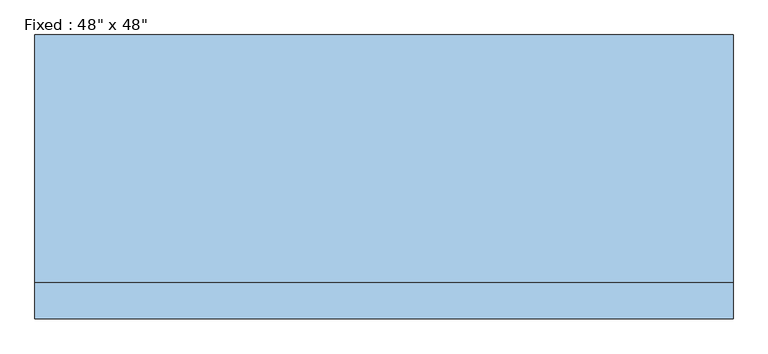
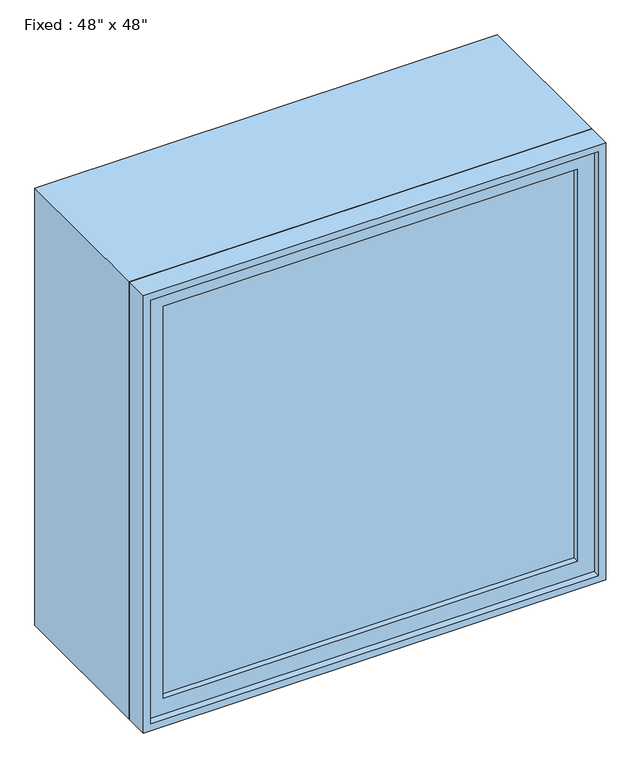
"""IFC4 building model written with IfcOpenShell, lengths in millimetres: window geometry."""

import ifcopenshell
import ifcopenshell.guid

model = None  # the IFC model being written
_history = None  # IfcOwnerHistory: only IFC2X3 demands one
_inside = {}  # id of a spatial element -> (the spatial element, [elements in it])
_under = {}  # id of a project, library or spatial element -> (it, [spatial elements below it])
_declared = {}  # id of a project -> (the project, [libraries it declares])
_typed = {}  # id of a type object -> (the type object, [elements of that type])
_made_of = {}  # id of a material, layer set ... -> (it, [elements and type objects made of it])


def new_model(schema):
    """Start an empty IFC model of exactly this schema.

    Asked for "IFC4X3", IfcOpenShell would pick the latest addendum, in which some entities
    have other attributes; the version numbers below select the first issue.
    IFC2X3 requires an IfcOwnerHistory on every rooted entity: one is made here for all.
    """
    global model, _history
    if schema == "IFC4X3":
        model = ifcopenshell.file(schema_version=(4, 3, 0, 0))
    else:
        model = ifcopenshell.file(schema=schema)
    _inside.clear()
    _under.clear()
    _declared.clear()
    _typed.clear()
    _made_of.clear()
    _history = None
    if model.schema == "IFC2X3":
        org = make("IfcOrganization", Name="unknown")
        user = make(
            "IfcPersonAndOrganization",
            ThePerson=make("IfcPerson", FamilyName="unknown"),
            TheOrganization=org,
        )
        app = make(
            "IfcApplication",
            ApplicationDeveloper=org,
            Version="unknown",
            ApplicationFullName="unknown",
            ApplicationIdentifier="unknown",
        )
        _history = make(
            "IfcOwnerHistory",
            OwningUser=user,
            OwningApplication=app,
            ChangeAction="ADDED",
            CreationDate=0,
        )
    return model


def make(cls, **values):
    """One entity of the class cls with the attributes given. An attribute that is None is left unset."""
    return model.create_entity(
        cls, **{name: value for name, value in values.items() if value is not None}
    )


def rooted(cls, **values):
    """An entity with a GlobalId (a new one), such as an element, a storey or a relation."""
    return make(cls, GlobalId=ifcopenshell.guid.new(), OwnerHistory=_history, **values)


def si_unit(unit_type, name, prefix=None):
    """IfcSIUnit, for example si_unit("LENGTHUNIT", "METRE", prefix="MILLI")."""
    return make("IfcSIUnit", UnitType=unit_type, Prefix=prefix, Name=name)


def assignment(units):
    """IfcUnitAssignment: the units of a project."""
    return None if units is None else make("IfcUnitAssignment", Units=units)


def point(xyz):
    """IfcCartesianPoint."""
    return None if xyz is None else make("IfcCartesianPoint", Coordinates=xyz)


def direction(xyz):
    """IfcDirection."""
    return None if xyz is None else make("IfcDirection", DirectionRatios=xyz)


def frame(location, z_axis=None, x_axis=None):
    """IfcAxis2Placement3D, a coordinate frame: its origin and axes. An axis left out is left unset."""
    return make(
        "IfcAxis2Placement3D",
        Location=point(location),
        Axis=direction(z_axis),
        RefDirection=direction(x_axis),
    )


def origin():
    """The frame at (0, 0, 0) with its axes left unset."""
    return frame((0.0, 0.0, 0.0))


def place(relative_to, where):
    """IfcLocalPlacement: puts the frame where relative to a parent placement (None: the world)."""
    return make(
        "IfcLocalPlacement", PlacementRelTo=relative_to, RelativePlacement=where
    )


def context(
    kind, dimensions, precision=None, world=None, true_north=None, identifier=None
):
    """IfcGeometricRepresentationContext, for example the 3D "Model" context."""
    return make(
        "IfcGeometricRepresentationContext",
        ContextIdentifier=identifier,
        ContextType=kind,
        CoordinateSpaceDimension=dimensions,
        Precision=precision,
        WorldCoordinateSystem=world,
        TrueNorth=true_north,
    )


def project(units=None, contexts=None):
    """IfcProject with its units and contexts."""
    return rooted(
        "IfcProject",
        Name="project",
        RepresentationContexts=contexts,
        UnitsInContext=assignment(units),
    )


def spatial(cls, under=None, at=None, **own):
    """A site, building, storey or space (cls), placed at a placement, below another one or the project."""
    s = rooted(cls, ObjectPlacement=at, **own)
    if under is not None:
        _under.setdefault(under.id(), (under, []))[1].append(s)
    return s


def polyline(points):
    """IfcPolyline through the points."""
    return make("IfcPolyline", Points=[point(p) for p in points])


def outline(outer, holes=None, kind="AREA"):
    """IfcArbitraryClosedProfileDef: a profile drawn as a closed curve; with holes, ...WithVoids."""
    if holes is None:
        return make("IfcArbitraryClosedProfileDef", ProfileType=kind, OuterCurve=outer)
    return make(
        "IfcArbitraryProfileDefWithVoids",
        ProfileType=kind,
        OuterCurve=outer,
        InnerCurves=holes,
    )


def extrude(swept, where, along, depth):
    """IfcExtrudedAreaSolid: the profile swept, set in the frame where, extruded along a direction by depth."""
    return make(
        "IfcExtrudedAreaSolid",
        SweptArea=swept,
        Position=where,
        ExtrudedDirection=direction(along),
        Depth=depth,
    )


def shape(context_of_items, identifier, shape_type, items):
    """IfcShapeRepresentation: the items that make up one representation, for example the "Body"."""
    return make(
        "IfcShapeRepresentation",
        ContextOfItems=context_of_items,
        RepresentationIdentifier=identifier,
        RepresentationType=shape_type,
        Items=items,
    )


def source(mapping_origin, context_of_items, identifier, shape_type, items):
    """IfcRepresentationMap: a shape defined once, which mapped items show again and again."""
    return make(
        "IfcRepresentationMap",
        MappingOrigin=mapping_origin,
        MappedRepresentation=shape(context_of_items, identifier, shape_type, items),
    )


def transform(
    local_origin,
    x_axis=None,
    y_axis=None,
    z_axis=None,
    scale=None,
    scale2=None,
    scale3=None,
    uniform=True,
):
    """IfcCartesianTransformationOperator3D, or its non-uniform kind. x_axis, y_axis, z_axis: its Axis1, 2, 3."""
    if uniform:
        return make(
            "IfcCartesianTransformationOperator3D",
            Axis1=direction(x_axis),
            Axis2=direction(y_axis),
            LocalOrigin=point(local_origin),
            Scale=scale,
            Axis3=direction(z_axis),
        )
    return make(
        "IfcCartesianTransformationOperator3DnonUniform",
        Axis1=direction(x_axis),
        Axis2=direction(y_axis),
        LocalOrigin=point(local_origin),
        Scale=scale,
        Axis3=direction(z_axis),
        Scale2=scale2,
        Scale3=scale3,
    )


def mapped(mapping_source, mapping_target):
    """IfcMappedItem: shows the shape of a source again, moved by a transform."""
    return make(
        "IfcMappedItem", MappingSource=mapping_source, MappingTarget=mapping_target
    )


def made_of(thing, what):
    """Note that an element or type object is made of a material, layer set ...; save() writes the relation."""
    if what is not None:
        _made_of.setdefault(what.id(), (what, []))[1].append(thing)
    return thing


def element(
    cls,
    number,
    at=None,
    inside=None,
    cuts=None,
    type_object=None,
    material=None,
    context=None,
    identifier="Body",
    shape_type=None,
    held_by="IfcProductDefinitionShape",
    body=None,
    shapes=None,
    **own,
):
    """One element of the class cls, such as IfcWall. Its Tag is "e" and its number.

    at: its placement. inside: the storey or other place that contains it. cuts: it is an
    opening in that element (IfcRelVoidsElement). A single representation is given by context,
    identifier, shape_type and body (its items); several are given by shapes. held_by: the class
    of the entity that holds the representations. save() writes the other relations.
    """
    e = rooted(cls, Tag="e%d" % number, ObjectPlacement=at, **own)
    if body is not None:
        shapes = [shape(context, identifier, shape_type, body)]
    if shapes is not None:
        e.Representation = make(held_by, Representations=shapes)
    if inside is not None:
        _inside.setdefault(inside.id(), (inside, []))[1].append(e)
    if cuts is not None:
        rooted(
            "IfcRelVoidsElement", RelatingBuildingElement=cuts, RelatedOpeningElement=e
        )
    if type_object is not None:
        _typed.setdefault(type_object.id(), (type_object, []))[1].append(e)
    return made_of(e, material)


def aggregate(whole, parts):
    """IfcRelAggregates: a whole, such as a stair, and the parts it consists of."""
    return rooted("IfcRelAggregates", RelatingObject=whole, RelatedObjects=parts)


def save(model, path):
    """Write the relations noted so far, then the file.

    IfcRelAggregates (storeys below a building ...), IfcRelContainedInSpatialStructure (elements
    in a storey), IfcRelDefinesByType, IfcRelAssociatesMaterial and IfcRelDeclares: one each for
    every whole, place, type object, material and project.
    """
    for whole, parts in _under.values():
        aggregate(whole, parts)
    for where, things in _inside.values():
        rooted(
            "IfcRelContainedInSpatialStructure",
            RelatedElements=things,
            RelatingStructure=where,
        )
    for kind, things in _typed.values():
        rooted("IfcRelDefinesByType", RelatedObjects=things, RelatingType=kind)
    for what, things in _made_of.values():
        rooted("IfcRelAssociatesMaterial", RelatedObjects=things, RelatingMaterial=what)
    for by, libraries in _declared.values():
        rooted("IfcRelDeclares", RelatingContext=by, RelatedDefinitions=libraries)
    model.write(path)


def window_d434eb62(model_context):
    return source(origin(), model_context, "Body", "SweptSolid", [
        extrude(outline(polyline([(508.0, -200.025), (508.0, -212.725), (-584.2, -212.725), (-584.2, -200.025), (508.0, -200.025)])), frame((0.0, 0.0, 977.9), z_axis=(0.0, 0.0, 1.0), x_axis=(1.0, 0.0, 0.0)), (0.0, 0.0, 1.0), 1092.2),
        extrude(outline(polyline([(2114.55, -628.65), (933.45, -628.65), (933.45, 552.45), (2114.55, 552.45), (2114.55, -628.65)]), holes=[polyline([(2070.1, -584.2), (2070.1, 508.0), (977.9, 508.0), (977.9, -584.2), (2070.1, -584.2)])]), frame((0.0, -228.6, 0.0), z_axis=(0.0, 1.0, 0.0), x_axis=(0.0, 0.0, 1.0)), (0.0, 0.0, 1.0), 44.45),
        extrude(outline(polyline([(2133.6, -647.7), (914.4, -647.7), (914.4, 571.5), (2133.6, 571.5), (2133.6, -647.7)]), holes=[polyline([(2101.85, -615.95), (2101.85, 539.75), (946.15, 539.75), (946.15, -615.95), (2101.85, -615.95)])]), frame((0.0, -184.15, 0.0), z_axis=(0.0, 1.0, 0.0), x_axis=(0.0, 0.0, 1.0)), (0.0, 0.0, 1.0), 431.8),
        extrude(outline(polyline([(2133.6, 571.5), (2133.6, -647.7), (914.4, -647.7), (914.4, 571.5), (2133.6, 571.5)]), holes=[polyline([(2114.55, 552.45), (933.45, 552.45), (933.45, -628.65), (2114.55, -628.65), (2114.55, 552.45)])]), frame((0.0, -247.65, 0.0), z_axis=(0.0, 1.0, 0.0), x_axis=(0.0, 0.0, 1.0)), (0.0, 0.0, 1.0), 63.5),
    ])


if __name__ == "__main__":
    model = new_model("IFC4")
    model_context = context("Model", 3, world=origin())
    ifc_project = project(units=[si_unit("LENGTHUNIT", "METRE", prefix="MILLI")], contexts=[model_context])
    site = spatial("IfcSite", under=ifc_project)
    building = spatial("IfcBuilding", under=site)
    placement = place(None, origin())
    window_shape = window_d434eb62(model_context)
    element("IfcWindow", 1, ObjectType="Fixed : 48\" x 48\"", at=placement, inside=building, context=model_context, shape_type="MappedRepresentation", body=[
        mapped(window_shape, transform((0.0, 0.0, 0.0), x_axis=(1.0, 0.0, 0.0), y_axis=(0.0, 1.0, 0.0), z_axis=(0.0, 0.0, 1.0))),
    ])
    save(model, "model.ifc")
